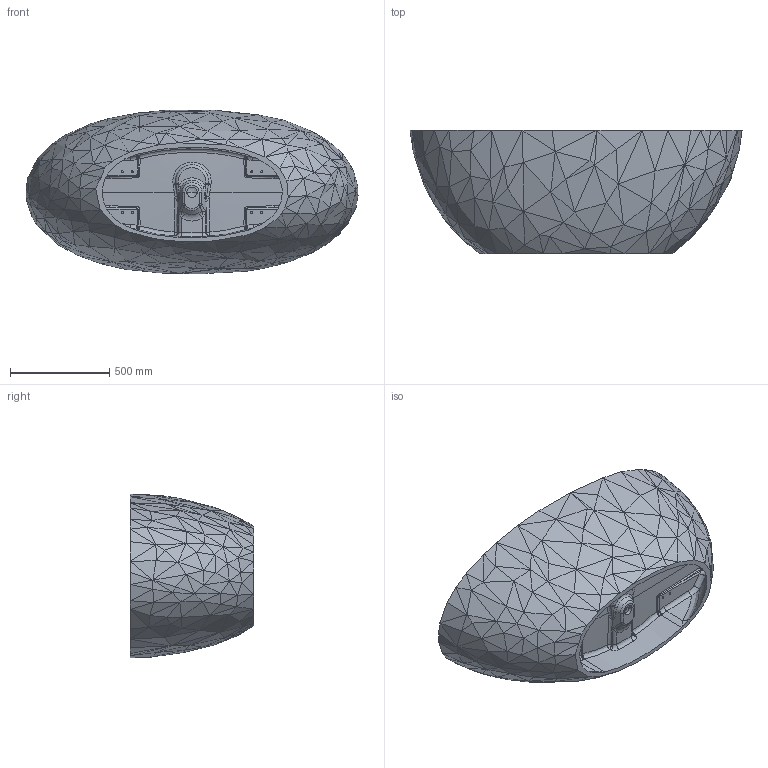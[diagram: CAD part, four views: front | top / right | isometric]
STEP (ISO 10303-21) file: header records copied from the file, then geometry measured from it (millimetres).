
FILE_DESCRIPTION (( 'STEP AP203' ), '1' );
FILE_NAME ('FZ724171.step', '2022-01-20T14:04:52', ( '' ), ( '' ), 'SwSTEP 2.0', 'SolidWorks 2019', '' );
FILE_SCHEMA (( 'CONFIG_CONTROL_DESIGN' ));
Products named in the file (1): FZ724171
Bounding box: 1668.75 x 620 x 823.42 mm (x, y, z)
Volume: 84536835.4 mm3; surface area: 5740913.6 mm2
Topology: 2 solids, 2 shells, 643 faces, 1224 edges, 578 vertices
Faces by surface type: plane 413, bspline 134, cylinder 52, torus 21, cone 17, sphere 6
Entity records: 33121 total; most frequent: CARTESIAN_POINT 22698, ORIENTED_EDGE 2416, DIRECTION 1598, EDGE_CURVE 1208, B_SPLINE_CURVE_WITH_KNOTS 821, AXIS2_PLACEMENT_3D 723, EDGE_LOOP 656, ADVANCED_FACE 643
